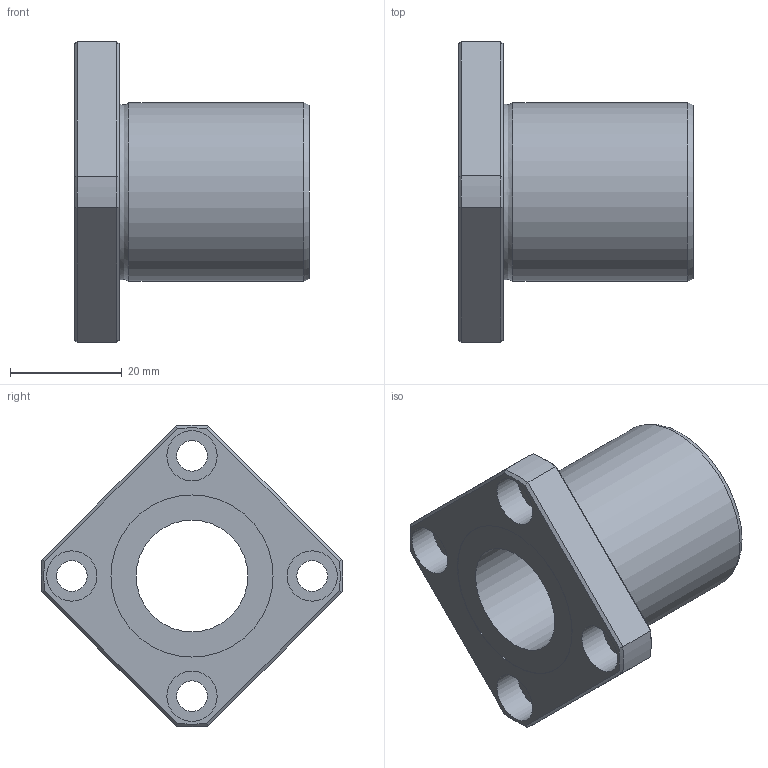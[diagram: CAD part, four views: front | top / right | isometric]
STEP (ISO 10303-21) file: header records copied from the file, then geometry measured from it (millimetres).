
FILE_DESCRIPTION((''),'2;1');
FILE_NAME('D:\製品 (図面)\カタログ用3D\リニアベアリング関連\STEP形式\LFK\LFK20.stp','2010-06-04T08:49:07',('Tsuchiya'),(''),'Autodesk Inventor 10','Autodesk Inventor 10','');
FILE_SCHEMA(('AUTOMOTIVE_DESIGN { 1 0 10303 214 1 1 1 1 }'));
Length unit declared in the file: millimetre
Products named in the file (1): LFK20
Bounding box: 42 x 53.97 x 53.97 mm (x, y, z)
Volume: 26232.8 mm3; surface area: 10666.6 mm2
Topology: 1 solids, 1 shells, 47 faces, 96 edges, 58 vertices
Faces by surface type: plane 21, cylinder 16, cone 8, torus 1, bspline 1
Full cylindrical faces by diameter (mm): 5.5 x4, 9 x4, 20 x1, 29 x2, 32 x1
Entity records: 1275 total; most frequent: CARTESIAN_POINT 298, DIRECTION 202, ORIENTED_EDGE 164, AXIS2_PLACEMENT_3D 89, EDGE_CURVE 82, EDGE_LOOP 78, VERTEX_POINT 58, FACE_OUTER_BOUND 47
